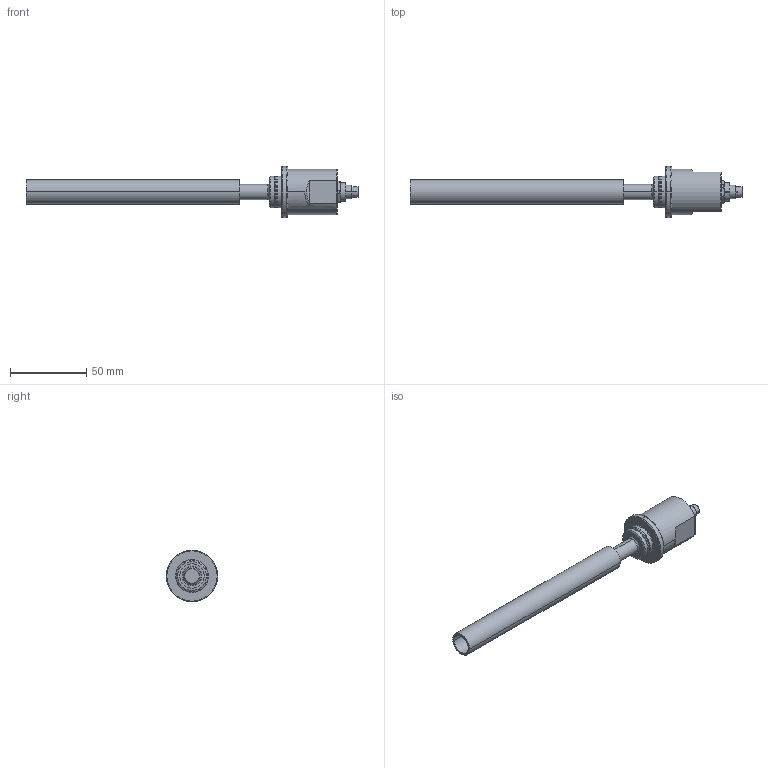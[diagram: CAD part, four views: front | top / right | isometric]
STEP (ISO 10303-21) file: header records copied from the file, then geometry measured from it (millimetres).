
FILE_DESCRIPTION((''),'2;1');
FILE_NAME('EDS-100-S-SA7_MIT_ROHR_ASM','2007-11-28T',('11000065'),(''),'PRO/ENGINEER BY PARAMETRIC TECHNOLOGY CORPORATION, 2007160','PRO/ENGINEER BY PARAMETRIC TECHNOLOGY CORPORATION, 2007160','');
FILE_SCHEMA(('AUTOMOTIVE_DESIGN { 1 2 10303 214 0 1 1 1 }'));
Length unit declared in the file: millimetre
Products named in the file (4): EDS-100-S-SA7; MESSROHR; O-RING-18X1_5; EDS-100-S-SA7_MIT_ROHR_ASM
Assembly tree (3 placements, depth 2):
  EDS-100-S-SA7_MIT_ROHR_ASM
    EDS-100-S-SA7
    MESSROHR
    O-RING-18X1_5
Bounding box: 218.19 x 34 x 34 mm (x, y, z)
Volume: 49924.6 mm3; surface area: 24664.8 mm2
Topology: 3 solids, 12 shells, 200 faces, 473 edges, 302 vertices
Faces by surface type: cylinder 95, plane 54, cone 20, sphere 14, torus 13, bspline 4
Entity records: 6552 total; most frequent: CARTESIAN_POINT 1341, DIRECTION 1102, ORIENTED_EDGE 914, AXIS2_PLACEMENT_3D 473, EDGE_CURVE 459, VERTEX_POINT 302, CIRCLE 268, EDGE_LOOP 239
